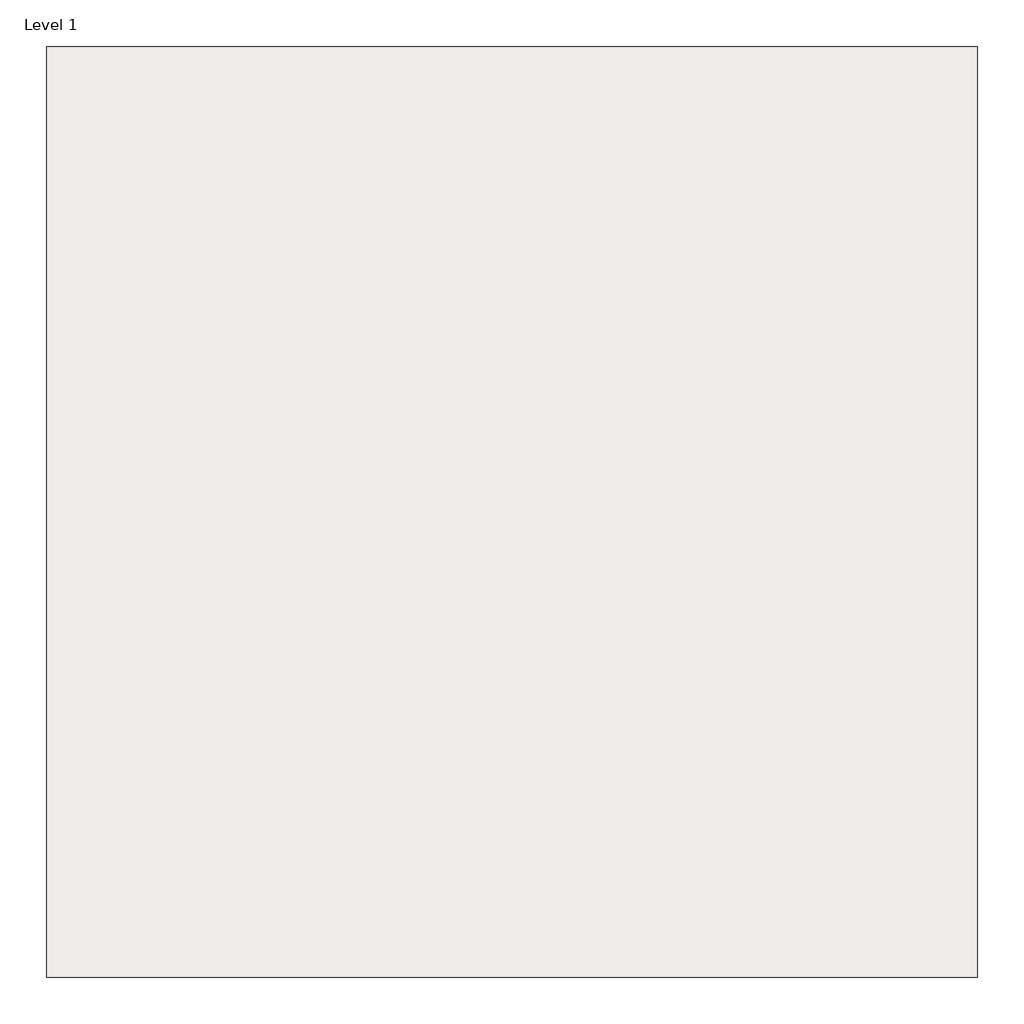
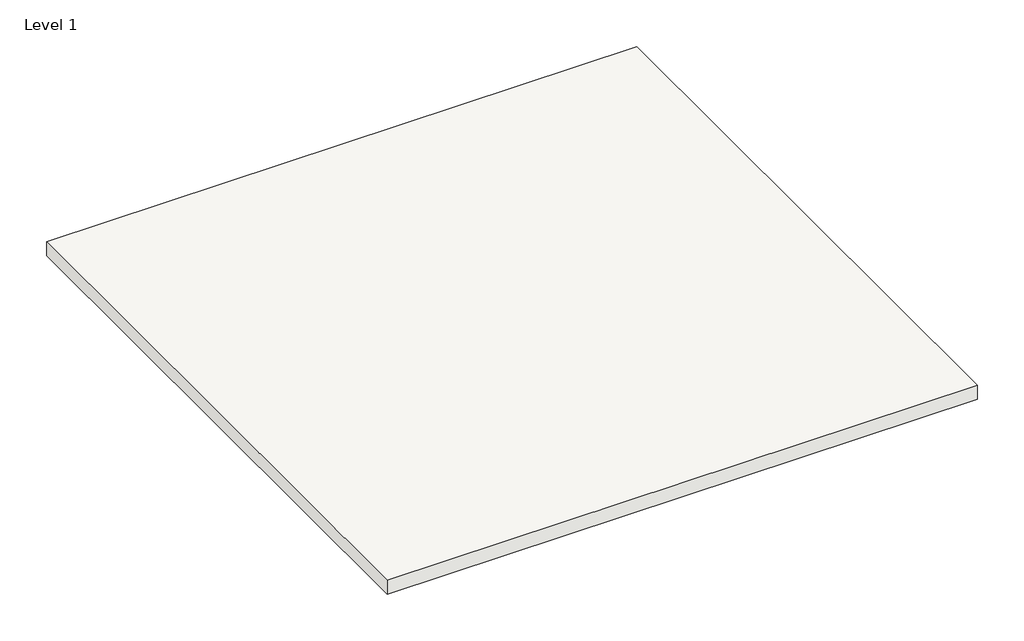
# One storey: 1 covering.
"""IFC4 building model written with IfcOpenShell, lengths in millimetres."""

import ifcopenshell
import ifcopenshell.guid

model = None  # the IFC model being written
_history = None  # IfcOwnerHistory: only IFC2X3 demands one
_inside = {}  # id of a spatial element -> (the spatial element, [elements in it])
_under = {}  # id of a project, library or spatial element -> (it, [spatial elements below it])
_declared = {}  # id of a project -> (the project, [libraries it declares])
_typed = {}  # id of a type object -> (the type object, [elements of that type])
_made_of = {}  # id of a material, layer set ... -> (it, [elements and type objects made of it])


def new_model(schema):
    """Start an empty IFC model of exactly this schema.

    Asked for "IFC4X3", IfcOpenShell would pick the latest addendum, in which some entities
    have other attributes; the version numbers below select the first issue.
    IFC2X3 requires an IfcOwnerHistory on every rooted entity: one is made here for all.
    """
    global model, _history
    if schema == "IFC4X3":
        model = ifcopenshell.file(schema_version=(4, 3, 0, 0))
    else:
        model = ifcopenshell.file(schema=schema)
    _inside.clear()
    _under.clear()
    _declared.clear()
    _typed.clear()
    _made_of.clear()
    _history = None
    if model.schema == "IFC2X3":
        org = make("IfcOrganization", Name="unknown")
        user = make(
            "IfcPersonAndOrganization",
            ThePerson=make("IfcPerson", FamilyName="unknown"),
            TheOrganization=org,
        )
        app = make(
            "IfcApplication",
            ApplicationDeveloper=org,
            Version="unknown",
            ApplicationFullName="unknown",
            ApplicationIdentifier="unknown",
        )
        _history = make(
            "IfcOwnerHistory",
            OwningUser=user,
            OwningApplication=app,
            ChangeAction="ADDED",
            CreationDate=0,
        )
    return model


def make(cls, **values):
    """One entity of the class cls with the attributes given. An attribute that is None is left unset."""
    return model.create_entity(
        cls, **{name: value for name, value in values.items() if value is not None}
    )


def rooted(cls, **values):
    """An entity with a GlobalId (a new one), such as an element, a storey or a relation."""
    return make(cls, GlobalId=ifcopenshell.guid.new(), OwnerHistory=_history, **values)


def si_unit(unit_type, name, prefix=None):
    """IfcSIUnit, for example si_unit("LENGTHUNIT", "METRE", prefix="MILLI")."""
    return make("IfcSIUnit", UnitType=unit_type, Prefix=prefix, Name=name)


def assignment(units):
    """IfcUnitAssignment: the units of a project."""
    return None if units is None else make("IfcUnitAssignment", Units=units)


def point(xyz):
    """IfcCartesianPoint."""
    return None if xyz is None else make("IfcCartesianPoint", Coordinates=xyz)


def direction(xyz):
    """IfcDirection."""
    return None if xyz is None else make("IfcDirection", DirectionRatios=xyz)


def frame(location, z_axis=None, x_axis=None):
    """IfcAxis2Placement3D, a coordinate frame: its origin and axes. An axis left out is left unset."""
    return make(
        "IfcAxis2Placement3D",
        Location=point(location),
        Axis=direction(z_axis),
        RefDirection=direction(x_axis),
    )


def origin():
    """The frame at (0, 0, 0) with its axes left unset."""
    return frame((0.0, 0.0, 0.0))


def origin_with_axes():
    """The frame at (0, 0, 0) with the z axis (0, 0, 1) and the x axis (1, 0, 0) written out."""
    return frame((0.0, 0.0, 0.0), z_axis=(0.0, 0.0, 1.0), x_axis=(1.0, 0.0, 0.0))


def place(relative_to, where):
    """IfcLocalPlacement: puts the frame where relative to a parent placement (None: the world)."""
    return make(
        "IfcLocalPlacement", PlacementRelTo=relative_to, RelativePlacement=where
    )


def context(
    kind, dimensions, precision=None, world=None, true_north=None, identifier=None
):
    """IfcGeometricRepresentationContext, for example the 3D "Model" context."""
    return make(
        "IfcGeometricRepresentationContext",
        ContextIdentifier=identifier,
        ContextType=kind,
        CoordinateSpaceDimension=dimensions,
        Precision=precision,
        WorldCoordinateSystem=world,
        TrueNorth=true_north,
    )


def project(units=None, contexts=None):
    """IfcProject with its units and contexts."""
    return rooted(
        "IfcProject",
        Name="project",
        RepresentationContexts=contexts,
        UnitsInContext=assignment(units),
    )


def spatial(cls, under=None, at=None, **own):
    """A site, building, storey or space (cls), placed at a placement, below another one or the project."""
    s = rooted(cls, ObjectPlacement=at, **own)
    if under is not None:
        _under.setdefault(under.id(), (under, []))[1].append(s)
    return s


def polyline(points):
    """IfcPolyline through the points."""
    return make("IfcPolyline", Points=[point(p) for p in points])


def outline(outer, holes=None, kind="AREA"):
    """IfcArbitraryClosedProfileDef: a profile drawn as a closed curve; with holes, ...WithVoids."""
    if holes is None:
        return make("IfcArbitraryClosedProfileDef", ProfileType=kind, OuterCurve=outer)
    return make(
        "IfcArbitraryProfileDefWithVoids",
        ProfileType=kind,
        OuterCurve=outer,
        InnerCurves=holes,
    )


def extrude(swept, where, along, depth):
    """IfcExtrudedAreaSolid: the profile swept, set in the frame where, extruded along a direction by depth."""
    return make(
        "IfcExtrudedAreaSolid",
        SweptArea=swept,
        Position=where,
        ExtrudedDirection=direction(along),
        Depth=depth,
    )


def shape(context_of_items, identifier, shape_type, items):
    """IfcShapeRepresentation: the items that make up one representation, for example the "Body"."""
    return make(
        "IfcShapeRepresentation",
        ContextOfItems=context_of_items,
        RepresentationIdentifier=identifier,
        RepresentationType=shape_type,
        Items=items,
    )


def made_of(thing, what):
    """Note that an element or type object is made of a material, layer set ...; save() writes the relation."""
    if what is not None:
        _made_of.setdefault(what.id(), (what, []))[1].append(thing)
    return thing


def element(
    cls,
    number,
    at=None,
    inside=None,
    cuts=None,
    type_object=None,
    material=None,
    context=None,
    identifier="Body",
    shape_type=None,
    held_by="IfcProductDefinitionShape",
    body=None,
    shapes=None,
    **own,
):
    """One element of the class cls, such as IfcWall. Its Tag is "e" and its number.

    at: its placement. inside: the storey or other place that contains it. cuts: it is an
    opening in that element (IfcRelVoidsElement). A single representation is given by context,
    identifier, shape_type and body (its items); several are given by shapes. held_by: the class
    of the entity that holds the representations. save() writes the other relations.
    """
    e = rooted(cls, Tag="e%d" % number, ObjectPlacement=at, **own)
    if body is not None:
        shapes = [shape(context, identifier, shape_type, body)]
    if shapes is not None:
        e.Representation = make(held_by, Representations=shapes)
    if inside is not None:
        _inside.setdefault(inside.id(), (inside, []))[1].append(e)
    if cuts is not None:
        rooted(
            "IfcRelVoidsElement", RelatingBuildingElement=cuts, RelatedOpeningElement=e
        )
    if type_object is not None:
        _typed.setdefault(type_object.id(), (type_object, []))[1].append(e)
    return made_of(e, material)


def aggregate(whole, parts):
    """IfcRelAggregates: a whole, such as a stair, and the parts it consists of."""
    return rooted("IfcRelAggregates", RelatingObject=whole, RelatedObjects=parts)


def save(model, path):
    """Write the relations noted so far, then the file.

    IfcRelAggregates (storeys below a building ...), IfcRelContainedInSpatialStructure (elements
    in a storey), IfcRelDefinesByType, IfcRelAssociatesMaterial and IfcRelDeclares: one each for
    every whole, place, type object, material and project.
    """
    for whole, parts in _under.values():
        aggregate(whole, parts)
    for where, things in _inside.values():
        rooted(
            "IfcRelContainedInSpatialStructure",
            RelatedElements=things,
            RelatingStructure=where,
        )
    for kind, things in _typed.values():
        rooted("IfcRelDefinesByType", RelatedObjects=things, RelatingType=kind)
    for what, things in _made_of.values():
        rooted("IfcRelAssociatesMaterial", RelatedObjects=things, RelatingMaterial=what)
    for by, libraries in _declared.values():
        rooted("IfcRelDeclares", RelatingContext=by, RelatedDefinitions=libraries)
    model.write(path)


model = new_model("IFC4")

# Units and contexts
model_context = context("Model", 3, world=origin())
ifc_project = project(units=[si_unit("LENGTHUNIT", "METRE", prefix="MILLI")], contexts=[model_context])

# Site, building, storey
site = spatial("IfcSite", under=ifc_project)
building = spatial("IfcBuilding", under=site)
storey = spatial("IfcBuildingStorey", under=building, Name="Level 1", Elevation=0.0)

# Covering
placement = place(None, origin())
element("IfcCovering", 1, ObjectType="RIGIPS - 4.05.72 (75)", at=placement, inside=storey, context=model_context, shape_type="SweptSolid", body=[
    extrude(outline(polyline([(-1500.0, 1500.0), (1500.0, 1500.0), (1500.0, -1500.0), (-1500.0, -1500.0), (-1500.0, 1500.0)])), origin_with_axes(), (0.0, 0.0, 1.0), 75.0),
])

save(model, "model.ifc")
